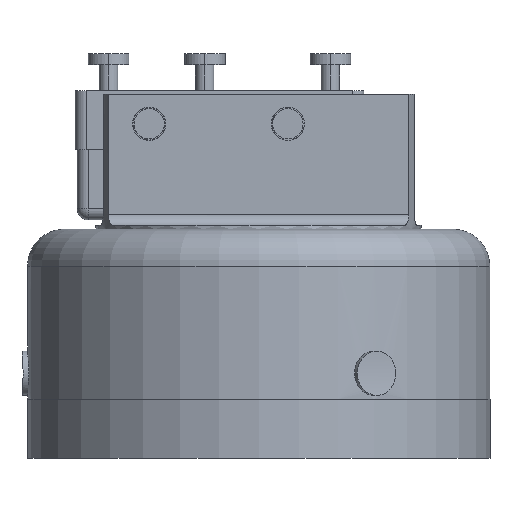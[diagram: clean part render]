
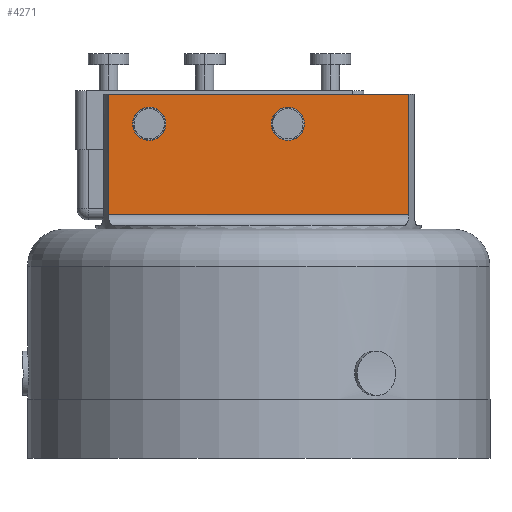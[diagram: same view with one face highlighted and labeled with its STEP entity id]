
A CAD part, left-side view. The second image highlights one B-rep face of the part: STEP entity #4271.
In plain terms, the highlighted planar face has unit normal (-1, 0, 0).
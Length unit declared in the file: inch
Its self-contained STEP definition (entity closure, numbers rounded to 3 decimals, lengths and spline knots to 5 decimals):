
#1604 = DIRECTION ( 'NONE',  ( 0., 0., -1. ) ) ;
#1605 = DIRECTION ( 'NONE',  ( 1., 0., 0. ) ) ;
#1616 = AXIS2_PLACEMENT_3D ( 'NONE', #1619, #1605, #1604 ) ;
#1617 = CIRCLE ( 'NONE', #1616, 0.045 ) ;
#1619 = CARTESIAN_POINT ( 'NONE',  ( -0.16925, -0.079, 0.285 ) ) ;
#1638 = DIRECTION ( 'NONE',  ( 0., 0., -1. ) ) ;
#1639 = DIRECTION ( 'NONE',  ( 1., 0., 0. ) ) ;
#1640 = CARTESIAN_POINT ( 'NONE',  ( -0.16925, 0.296, 0.285 ) ) ;
#1641 = AXIS2_PLACEMENT_3D ( 'NONE', #1640, #1639, #1638 ) ;
#1646 = CIRCLE ( 'NONE', #1641, 0.045 ) ;
#1702 = CARTESIAN_POINT ( 'NONE',  ( -0.16925, 0.40615, 0.04 ) ) ;
#1703 = DIRECTION ( 'NONE',  ( 0., -1., 0. ) ) ;
#1704 = VECTOR ( 'NONE', #1703, 39.37008 ) ;
#1705 = CARTESIAN_POINT ( 'NONE',  ( -0.16925, -0.40615, 0.04 ) ) ;
#1706 = LINE ( 'NONE', #1705, #1704 ) ;
#1708 = CARTESIAN_POINT ( 'NONE',  ( -0.16925, -0.40615, 0.04 ) ) ;
#1774 = CARTESIAN_POINT ( 'NONE',  ( -0.16925, -0.40615, 0.365 ) ) ;
#1775 = DIRECTION ( 'NONE',  ( 0., 0., -1. ) ) ;
#1776 = VECTOR ( 'NONE', #1775, 39.37008 ) ;
#1777 = CARTESIAN_POINT ( 'NONE',  ( -0.16925, -0.40615, 0.365 ) ) ;
#1778 = LINE ( 'NONE', #1777, #1776 ) ;
#1779 = CARTESIAN_POINT ( 'NONE',  ( -0.16925, 0.40615, 0.365 ) ) ;
#1780 = DIRECTION ( 'NONE',  ( 0., 0., 1. ) ) ;
#1781 = VECTOR ( 'NONE', #1780, 39.37008 ) ;
#1782 = CARTESIAN_POINT ( 'NONE',  ( -0.16925, 0.40615, 0.365 ) ) ;
#1783 = LINE ( 'NONE', #1782, #1781 ) ;
#1809 = DIRECTION ( 'NONE',  ( 0., 0., -1. ) ) ;
#1810 = DIRECTION ( 'NONE',  ( 1., 0., 0. ) ) ;
#1811 = CARTESIAN_POINT ( 'NONE',  ( -0.16925, -0.5, 0.01 ) ) ;
#1812 = AXIS2_PLACEMENT_3D ( 'NONE', #1811, #1810, #1809 ) ;
#1813 = PLANE ( 'NONE',  #1812 ) ;
#1814 = FACE_OUTER_BOUND ( 'NONE', #4250, .T. ) ;
#1815 = FACE_BOUND ( 'NONE', #4323, .T. ) ;
#1816 = FACE_BOUND ( 'NONE', #4272, .T. ) ;
#1835 = DIRECTION ( 'NONE',  ( 0., -1., 0. ) ) ;
#1836 = VECTOR ( 'NONE', #1835, 39.37008 ) ;
#1837 = CARTESIAN_POINT ( 'NONE',  ( -0.16925, 0.44, 0.365 ) ) ;
#1838 = LINE ( 'NONE', #1837, #1836 ) ;
#2059 = DIRECTION ( 'NONE',  ( 0., 0., -1. ) ) ;
#2060 = CIRCLE ( 'NONE', #2316, 0.045 ) ;
#2276 = CARTESIAN_POINT ( 'NONE',  ( -0.16925, -0.079, 0.24 ) ) ;
#2310 = DIRECTION ( 'NONE',  ( 1., 0., 0. ) ) ;
#2311 = CARTESIAN_POINT ( 'NONE',  ( -0.16925, 0.296, 0.285 ) ) ;
#2316 = AXIS2_PLACEMENT_3D ( 'NONE', #2311, #2310, #2059 ) ;
#2371 = CARTESIAN_POINT ( 'NONE',  ( -0.16925, 0.296, 0.24 ) ) ;
#2372 = CARTESIAN_POINT ( 'NONE',  ( -0.16925, 0.296, 0.33 ) ) ;
#2670 = EDGE_CURVE ( 'NONE', #2671, #4596, #4919, .T. ) ;
#2671 = VERTEX_POINT ( 'NONE', #4914 ) ;
#4180 = EDGE_CURVE ( 'NONE', #4596, #2671, #1617, .T. ) ;
#4196 = EDGE_CURVE ( 'NONE', #4615, #4614, #1646, .T. ) ;
#4231 = VERTEX_POINT ( 'NONE', #1708 ) ;
#4234 = EDGE_CURVE ( 'NONE', #4235, #4231, #1706, .T. ) ;
#4235 = VERTEX_POINT ( 'NONE', #1702 ) ;
#4250 = EDGE_LOOP ( 'NONE', ( #4251, #4254, #4255, #4308 ) ) ;
#4251 = ORIENTED_EDGE ( 'NONE', *, *, #4252, .F. ) ;
#4252 = EDGE_CURVE ( 'NONE', #4235, #4253, #1783, .T. ) ;
#4253 = VERTEX_POINT ( 'NONE', #1779 ) ;
#4254 = ORIENTED_EDGE ( 'NONE', *, *, #4234, .T. ) ;
#4255 = ORIENTED_EDGE ( 'NONE', *, *, #4256, .F. ) ;
#4256 = EDGE_CURVE ( 'NONE', #4257, #4231, #1778, .T. ) ;
#4257 = VERTEX_POINT ( 'NONE', #1774 ) ;
#4271 = ADVANCED_FACE ( 'NONE', ( #1816, #1815, #1814 ), #1813, .F. ) ;
#4272 = EDGE_LOOP ( 'NONE', ( #4321, #4322 ) ) ;
#4308 = ORIENTED_EDGE ( 'NONE', *, *, #4309, .F. ) ;
#4309 = EDGE_CURVE ( 'NONE', #4253, #4257, #1838, .T. ) ;
#4321 = ORIENTED_EDGE ( 'NONE', *, *, #4196, .T. ) ;
#4322 = ORIENTED_EDGE ( 'NONE', *, *, #4613, .T. ) ;
#4323 = EDGE_LOOP ( 'NONE', ( #4324, #4325 ) ) ;
#4324 = ORIENTED_EDGE ( 'NONE', *, *, #4180, .T. ) ;
#4325 = ORIENTED_EDGE ( 'NONE', *, *, #2670, .T. ) ;
#4596 = VERTEX_POINT ( 'NONE', #2276 ) ;
#4613 = EDGE_CURVE ( 'NONE', #4614, #4615, #2060, .T. ) ;
#4614 = VERTEX_POINT ( 'NONE', #2372 ) ;
#4615 = VERTEX_POINT ( 'NONE', #2371 ) ;
#4914 = CARTESIAN_POINT ( 'NONE',  ( -0.16925, -0.079, 0.33 ) ) ;
#4915 = DIRECTION ( 'NONE',  ( 0., 0., -1. ) ) ;
#4916 = DIRECTION ( 'NONE',  ( 1., 0., 0. ) ) ;
#4917 = CARTESIAN_POINT ( 'NONE',  ( -0.16925, -0.079, 0.285 ) ) ;
#4918 = AXIS2_PLACEMENT_3D ( 'NONE', #4917, #4916, #4915 ) ;
#4919 = CIRCLE ( 'NONE', #4918, 0.045 ) ;
